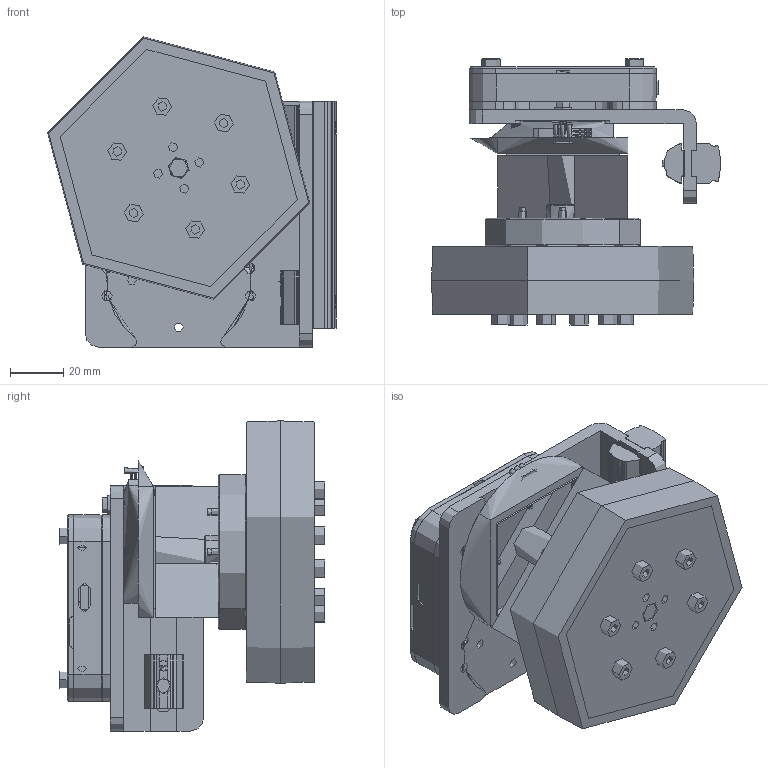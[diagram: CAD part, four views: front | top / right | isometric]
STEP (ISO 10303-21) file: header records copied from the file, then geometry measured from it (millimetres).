
FILE_DESCRIPTION (( 'STEP AP203' ), '1' );
FILE_NAME ('斃憲儘乕儔乕AS.STEP', '2023-10-13T00:25:44', ( '' ), ( '' ), 'SwSTEP 2.0', 'SolidWorks 2019', '' );
FILE_SCHEMA (( 'CONFIG_CONTROL_DESIGN' ));
Length unit declared in the file: millimetre
Products named in the file (60): 4; 12; 1; 15; 13; 6; 搬送ローラーAS; 3; 19; 5; 8; 21; 20; 14; 11; 9; 10; 18; 7; 2; 16; 17
Assembly tree (38 placements, depth 2):
  4
  1
  13
  搬送ローラーAS
    1
    2
    3  x2
    4  x2
    5
    6
    7
    8  x2
    9
    10
    11
    12
    13
    14
    15
    16
    17
    18  x6
    19  x4
    20  x4
    21  x4
  3
Bounding box: 108.07 x 99.5 x 116.07 mm (x, y, z)
Topology: 34 solids, 70 shells, 2446 faces, 6417 edges, 4120 vertices
Faces by surface type: plane 863, cylinder 862, bspline 426, cone 273, torus 22
Full cylindrical faces by diameter (mm): 3.086 x1
Entity records: 159202 total; most frequent: CARTESIAN_POINT 103835, ORIENTED_EDGE 11248, DIRECTION 9076, EDGE_CURVE 5699, VERTEX_POINT 3680, AXIS2_PLACEMENT_3D 3316, VECTOR 2444, LINE 2444
